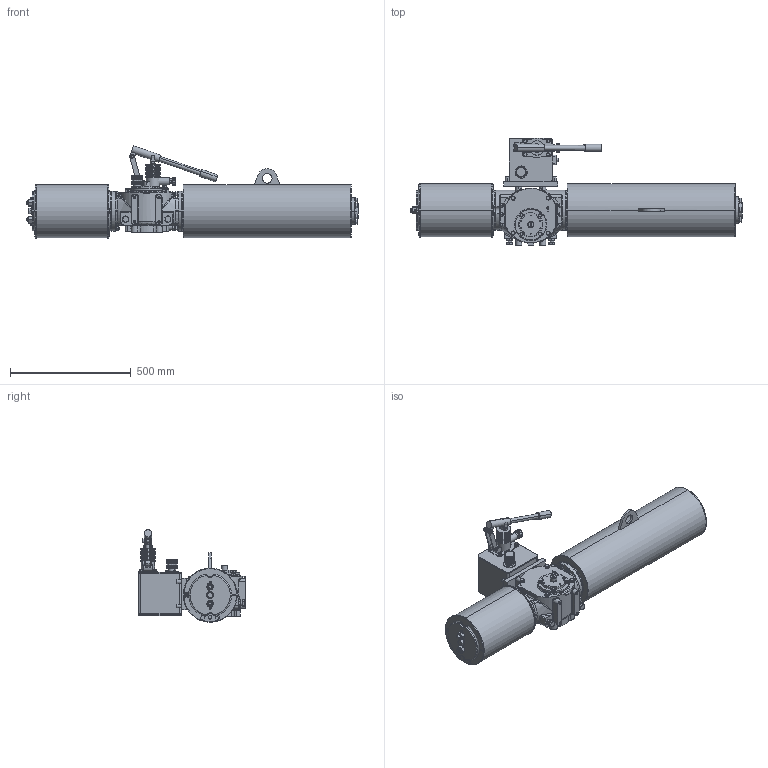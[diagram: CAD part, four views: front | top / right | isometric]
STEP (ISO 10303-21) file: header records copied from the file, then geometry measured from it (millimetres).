
FILE_DESCRIPTION (( 'STEP AP203' ), '1' );
FILE_NAME ('VTS1-200-SR-MH-FC.STEP', '2023-01-01T07:17:29', ( '' ), ( '' ), 'SwSTEP 2.0', 'SolidWorks 2020', '' );
FILE_SCHEMA (( 'CONFIG_CONTROL_DESIGN' ));
Products named in the file (1): VTS1-200-SR-MH-FC
Bounding box: 1373 x 445.4 x 382.27 mm (x, y, z)
Volume: 49245476.2 mm3; surface area: 1983510.4 mm2
Topology: 48 solids, 51 shells, 2385 faces, 6114 edges, 3934 vertices
Faces by surface type: plane 921, cylinder 821, cone 440, bspline 199, torus 4
Entity records: 100974 total; most frequent: CARTESIAN_POINT 45867, ORIENTED_EDGE 12108, DIRECTION 10470, EDGE_CURVE 6054, AXIS2_PLACEMENT_3D 4018, VERTEX_POINT 3934, EDGE_LOOP 2678, LINE 2434
